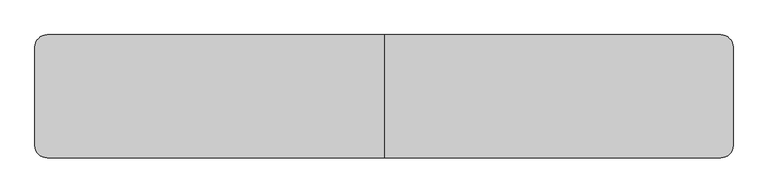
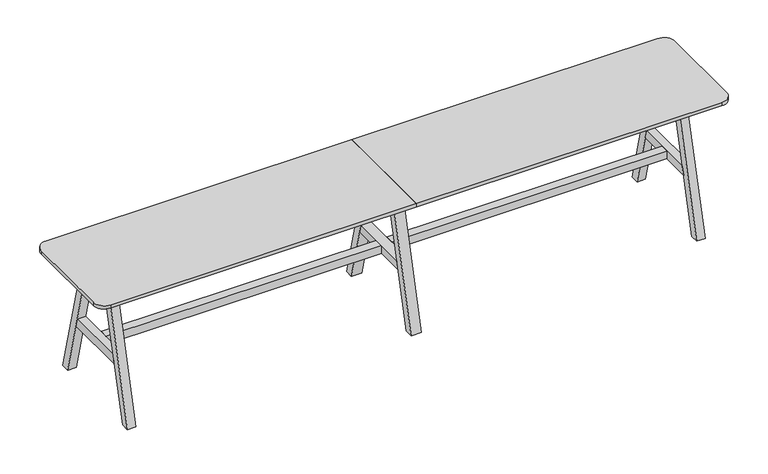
"""IFC4 building model written with IfcOpenShell, lengths in millimetres: furniture geometry, BDG_BossDesign_Tbls_AgentTables6Legs : AGE-DT-6L-3400-600-3D."""

from ifc_helpers import new_model, si_unit, point, frame, frame_2d, origin, place, context, project, spatial, polyline, circle_curve, trimmed, segment, composite_curve, outline, extrude, source, transform, mapped, element, save


def furniture_f51041cf(model_context):
    return source(origin(), model_context, "Body", "SweptSolid", [
        extrude(outline(polyline([(300.0, 0.0), (254.9999949, 0.0), (85.5, 660.0), (130.5000051, 660.0), (300.0, 0.0)])), frame((-27.5, 0.0, 0.0), z_axis=(1.0, 0.0, 0.0), x_axis=(0.0, 1.0, 0.0)), (0.0, 0.0, 1.0), 55.0),
        extrude(outline(polyline([(-300.0, 0.0), (-130.5000051, 660.0), (-85.5, 660.0), (-254.9999949, 0.0), (-300.0, 0.0)])), frame((-27.5, 0.0, 0.0), z_axis=(1.0, 0.0, 0.0), x_axis=(0.0, 1.0, 0.0)), (0.0, 0.0, 1.0), 55.0),
        extrude(outline(polyline([(177.9545427, 300.0), (-177.9545427, 300.0), (-166.3977249, 345.0), (166.3977249, 345.0), (177.9545427, 300.0)])), frame((-27.5, 0.0, 0.0), z_axis=(1.0, 0.0, 0.0), x_axis=(0.0, 1.0, 0.0)), (0.0, 0.0, 1.0), 55.0),
        extrude(outline(composite_curve([segment(polyline([(0.0, 300.0), (0.0, -300.0), (-1640.0, -300.0)]), True, "CONTINUOUS"), segment(trimmed(circle_curve(frame_2d((-1640.0, -240.0)), 60.0), [point((-1640.0, -300.0))], [point((-1700.0, -240.0))], False, "CARTESIAN"), True, "CONTINUOUS"), segment(polyline([(-1700.0, -240.0), (-1700.0, 240.0)]), True, "CONTINUOUS"), segment(trimmed(circle_curve(frame_2d((-1640.0, 240.0)), 60.0), [point((-1700.0, 240.0))], [point((-1640.0, 300.0))], False, "CARTESIAN"), True, "CONTINUOUS"), segment(polyline([(-1640.0, 300.0), (0.0, 300.0)]), True, "CONTINUOUS")], self_intersect=False)), frame((0.0, 0.0, 722.0), z_axis=(0.0, 0.0, 1.0), x_axis=(1.0, 0.0, 0.0)), (0.0, 0.0, 1.0), 18.0),
        extrude(outline(polyline([(-166.3977249, 345.0), (166.3977249, 345.0), (177.9545427, 300.0), (-177.9545427, 300.0), (-166.3977249, 345.0)])), frame((1505.0, 0.0, 0.0), z_axis=(1.0, 0.0, 0.0), x_axis=(0.0, 1.0, 0.0)), (0.0, 0.0, 1.0), 45.0),
        extrude(outline(polyline([(300.0, 0.0), (254.9999949, 0.0), (85.5, 660.0), (130.5000051, 660.0), (300.0, 0.0)])), frame((-1550.0, 0.0, 0.0), z_axis=(1.0, 0.0, 0.0), x_axis=(0.0, 1.0, 0.0)), (0.0, 0.0, 1.0), 45.0),
        extrude(outline(polyline([(-300.0, 0.0), (-130.5000051, 660.0), (-85.5, 660.0), (-254.9999949, 0.0), (-300.0, 0.0)])), frame((-1550.0, 0.0, 0.0), z_axis=(1.0, 0.0, 0.0), x_axis=(0.0, 1.0, 0.0)), (0.0, 0.0, 1.0), 45.0),
        extrude(outline(polyline([(-166.3977249, 345.0), (166.3977249, 345.0), (177.9545427, 300.0), (-177.9545427, 300.0), (-166.3977249, 345.0)])), frame((-1550.0, 0.0, 0.0), z_axis=(1.0, 0.0, 0.0), x_axis=(0.0, 1.0, 0.0)), (0.0, 0.0, 1.0), 45.0),
        extrude(outline(polyline([(-126.6006165, 634.973938), (-104.2770691, 722.0), (-79.5, 722.0), (-101.8235474, 634.973938), (-126.6006165, 634.973938)])), frame((-1505.0, 0.0, 0.0), z_axis=(1.0, 0.0, 0.0), x_axis=(0.0, 1.0, 0.0)), (0.0, 0.0, 1.0), 3010.0),
        extrude(outline(polyline([(126.6006165, 634.973938), (101.8235474, 634.973938), (79.5, 722.0), (104.2770691, 722.0), (126.6006165, 634.973938)])), frame((-1505.0, 0.0, 0.0), z_axis=(1.0, 0.0, 0.0), x_axis=(0.0, 1.0, 0.0)), (0.0, 0.0, 1.0), 3010.0),
        extrude(outline(polyline([(299.7999878, 0.0), (254.7999827, 0.0), (85.5, 660.0), (130.5000051, 660.0), (299.7999878, 0.0)])), frame((1505.0, 0.0, 0.0), z_axis=(1.0, 0.0, 0.0), x_axis=(0.0, 1.0, 0.0)), (0.0, 0.0, 1.0), 45.0),
        extrude(outline(polyline([(-299.7999878, 0.0), (-130.5000051, 660.0), (-85.5, 660.0), (-254.7999827, 0.0), (-299.7999878, 0.0)])), frame((1505.0, 0.0, 0.0), z_axis=(1.0, 0.0, 0.0), x_axis=(0.0, 1.0, 0.0)), (0.0, 0.0, 1.0), 45.0),
        extrude(outline(polyline([(-27.5, 22.5000305), (-27.5, -22.5000305), (-1505.0, -22.5000305), (-1505.0, 22.5000305), (-27.5, 22.5000305)])), frame((0.0, 0.0, 300.0), z_axis=(0.0, 0.0, 1.0), x_axis=(1.0, 0.0, 0.0)), (0.0, 0.0, 1.0), 45.0),
        extrude(outline(polyline([(27.5, -22.5000305), (27.5, 22.5000305), (1505.0, 22.5000305), (1505.0, -22.5000305), (27.5, -22.5000305)])), frame((0.0, 0.0, 300.0), z_axis=(0.0, 0.0, 1.0), x_axis=(1.0, 0.0, 0.0)), (0.0, 0.0, 1.0), 45.0),
        extrude(outline(composite_curve([segment(trimmed(circle_curve(frame_2d((1640.0, 240.0)), 60.0), [point((1640.0, 300.0))], [point((1700.0, 240.0))], False, "CARTESIAN"), True, "CONTINUOUS"), segment(polyline([(1700.0, 240.0), (1700.0, -240.0)]), True, "CONTINUOUS"), segment(trimmed(circle_curve(frame_2d((1640.0, -240.0)), 60.0), [point((1700.0, -240.0))], [point((1640.0, -300.0))], False, "CARTESIAN"), True, "CONTINUOUS"), segment(polyline([(1640.0, -300.0), (0.0, -300.0), (0.0, 300.0), (1640.0, 300.0)]), True, "CONTINUOUS")], self_intersect=False)), frame((0.0, 0.0, 722.0), z_axis=(0.0, 0.0, 1.0), x_axis=(1.0, 0.0, 0.0)), (0.0, 0.0, 1.0), 18.0),
    ])


if __name__ == "__main__":
    model = new_model("IFC4")
    model_context = context("Model", 3, world=origin())
    ifc_project = project(units=[si_unit("LENGTHUNIT", "METRE", prefix="MILLI")], contexts=[model_context])
    site = spatial("IfcSite", under=ifc_project)
    building = spatial("IfcBuilding", under=site)
    placement = place(None, origin())
    furniture_shape = furniture_f51041cf(model_context)
    element("IfcFurniture", 1, ObjectType="BDG_BossDesign_Tbls_AgentTables6Legs : AGE-DT-6L-3400-600-3D", at=placement, inside=building, context=model_context, shape_type="MappedRepresentation", body=[
        mapped(furniture_shape, transform((0.0, 0.0, 0.0), x_axis=(1.0, 0.0, 0.0), y_axis=(0.0, 1.0, 0.0), z_axis=(0.0, 0.0, 1.0))),
    ])
    save(model, "model.ifc")
